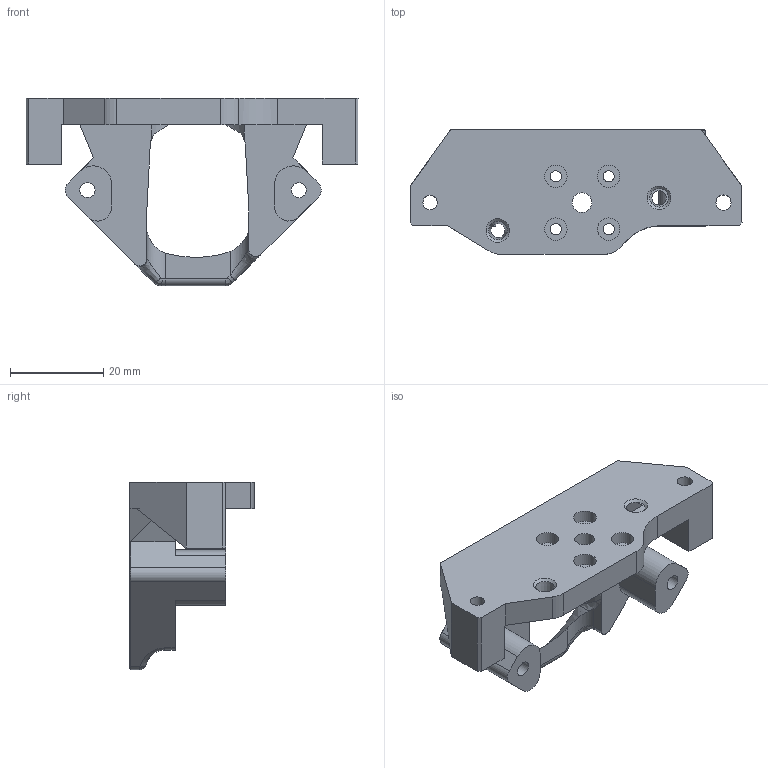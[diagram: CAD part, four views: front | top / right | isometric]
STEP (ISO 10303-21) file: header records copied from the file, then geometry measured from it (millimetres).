
FILE_DESCRIPTION(/* description */ (''),/* implementation_level */ '2;1');
FILE_NAME(/* name */ 'C:/Users/Martin/Documents/icarus-2.1/icarus-2-current-step-files/2-mounts/mount-orbiter-1.5-volcano-dragon-2.1.step',/* time_stamp */ '2022-08-22T19:17:37+02:00',/* author */ (''),/* organization */ (''),/* preprocessor_version */ 'ST-DEVELOPER v19',/* originating_system */ 'Autodesk Translation Framework v11.7.0.108',/* authorisation */ '');
FILE_SCHEMA (('AUTOMOTIVE_DESIGN { 1 0 10303 214 3 1 1 }'));
Length unit declared in the file: millimetre
Products named in the file (1): mount-rapido
Bounding box: 71.07 x 26.66 x 40.18 mm (x, y, z)
Volume: 16344.7 mm3; surface area: 9080.2 mm2
Topology: 1 solids, 1 shells, 118 faces, 314 edges, 201 vertices
Faces by surface type: plane 46, cylinder 33, bspline 26, cone 12, torus 1
Full cylindrical faces by diameter (mm): 2.4 x4, 3.1 x1, 3.25 x5, 4.2 x1, 4.8 x4
Entity records: 4581 total; most frequent: CARTESIAN_POINT 1685, ORIENTED_EDGE 628, DIRECTION 526, EDGE_CURVE 314, VERTEX_POINT 201, AXIS2_PLACEMENT_3D 178, LINE 170, VECTOR 170
